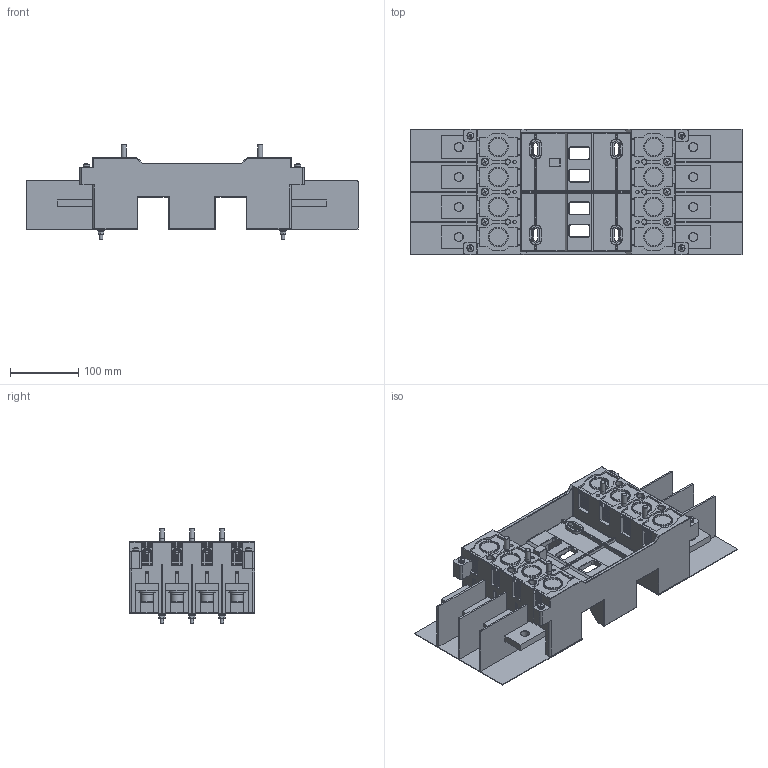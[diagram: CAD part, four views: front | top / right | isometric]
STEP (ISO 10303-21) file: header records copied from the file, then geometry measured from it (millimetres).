
FILE_DESCRIPTION(/* description */ (''),/* implementation_level */ '2;1');
FILE_NAME(/* name */ 'FCR1-CM5-630S-2.stp',/* time_stamp */ '2023-03-24T15:16:11+08:00',/* author */ (''),/* organization */ (''),/* preprocessor_version */ 'ST-DEVELOPER v16.7',/* originating_system */ 'SIEMENS PLM Software NX 12.0',/* authorisation */ '');
FILE_SCHEMA (('AUTOMOTIVE_DESIGN { 1 0 10303 214 3 1 1 1 }'));
Products named in the file (1): _model1
Bounding box: 487 x 184 x 138.7 mm (x, y, z)
Volume: 2470829 mm3; surface area: 698652.9 mm2
Topology: 9 solids, 35 shells, 3669 faces, 9655 edges, 6193 vertices
Faces by surface type: plane 2343, cylinder 1002, torus 162, cone 104, sphere 46, bspline 12
Full cylindrical faces by diameter (mm): 4.351 x4, 4.5 x6, 5 x28, 5.3 x6, 5.5 x6, 6 x4, 7 x6, 7.2 x6, 8.75 x7, 9 x6, 9.5 x10, 10 x7, 10.5 x6, 12 x8, 12.5 x16, 13 x8, 18 x8, 20 x8, 24 x8, 26 x8, 29 x8
Entity records: 137293 total; most frequent: CARTESIAN_POINT 22660, DIRECTION 18560, ORIENTED_EDGE 18296, EDGE_CURVE 9148, LINE 6484, VECTOR 6484, AXIS2_PLACEMENT_3D 6038, VERTEX_POINT 6016
